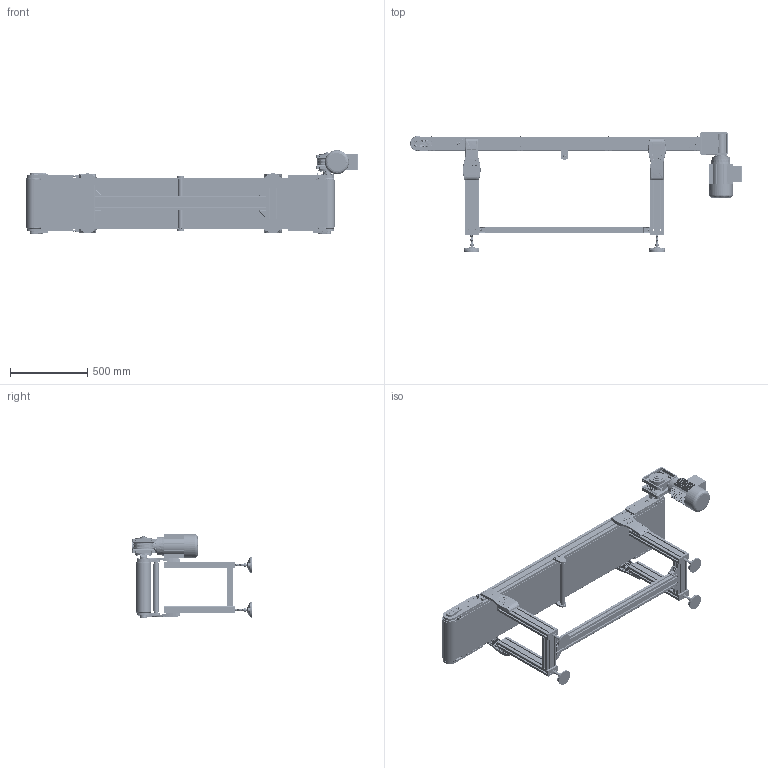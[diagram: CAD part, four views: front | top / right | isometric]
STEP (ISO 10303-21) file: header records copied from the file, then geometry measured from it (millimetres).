
FILE_DESCRIPTION (( 'STEP AP214' ), '1' );
FILE_NAME ('NASTRO_RETTILINEO_TAPPETO.step', '2026-05-11T04:44:31', ( 'Utente Windows' ), ( '' ), 'SwSTEP 2.0', 'SolidWorks 2024', '' );
FILE_SCHEMA (( 'AUTOMOTIVE_DESIGN' ));
Length unit declared in the file: millimetre
Products named in the file (65): 084.808.003_084.808.003; 084.802.068; VITI TE UNI 5739_M8x16 UNI 5739; 084.303.001; NASTRO_RETTILINEO_TAPPETO; 084.405.001; 084.812.004; 2010.000.073; TAPPETO_STANDARD; 084.302.000 DADI ALUSIC 13x13-1_084.302.004; 084.802.014; BLOCCO_RINVIO_95_STANDARD_CON TENDINASTRO E CARTER; 084.802.060_Default<A macchina>; VITI TSEI UNI 5933_M4x12 UNI 5933; BLOCCO_TRAINO_95_STANDARD_63_CON TENDINASTRO E SENZA CARTER; 084.802.013-2; BLOCCO_TRAINO_95_STANDARD_CON TENDINASTRO E CARTER; 084.802.034_084.802.034; VITE_DADO_M5X12; 2010.000.072; 084.301.000 VITI ALUSIC1_084.301.003; PIEDE_95; VITI TCEI UNI 5931_M4x25 UNI 5931; 084.810.003; VITI TE UNI 5739_M8x12 UNI 5739; 084.201.019; FLANGIA_GAMBA_95_CON GIUNTI; BLOCCO_REGGITAPPETO; 084.802.062; RULLO_95_Default<A macchina>; VITE_RONDELLA_M8X20; 30UNI7435; 084.802.017_084.802.017; 084.808.013; 084.803.003; VITI TSEI UNI 5933_M5x12 UNI 5933; 084.808.002_084.808.002; CHIAVETTE_A 8x7x20 UNI 6604-69; 084.302.060; GAMBE_D95_Default<A macchina>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
Assembly tree (197 placements, depth 4):
  NASTRO_RETTILINEO_TAPPETO
    TAPPETO_STANDARD
    TELAIO_95_STANDARD_Default<A macchina>
    LAMIERA_STANDARD
    RULLO_95_Default<A macchina>  x2
    BLOCCO_PERNO_95_63
      084.812.004
      084.810.003
      CHIAVETTE_A 8x7x70 UNI 6604-69
      RONDELLE FASCIA LARGA UNI 6593_8.4x32 UNI 6593
      VITI TE UNI 5739_M8x16 UNI 5739
      CHIAVETTE_A 8x7x20 UNI 6604-69
      30UNI7435
    BLOCCO_TRAINO_95_STANDARD_63_CON TENDINASTRO E SENZA CARTER
      084.808.003_084.808.003
      084.302.060  x2
      084.802.034_084.802.034
      084.301.000 VITI ALUSIC_084.301.003  x6
      084.802.067_Default<A macchina>
      VITI TCEI UNI 5931_M4x25 UNI 5931  x2
      BLOCCO_BRACCIO_CH06P_CH06P
        084.808.013
        084.802.062
        084.802.060_Default<A macchina>
        VITI TE UNI 5739_M8x12 UNI 5739  x12
    BLOCCO_PERNO_95_RINVIO  x3
      084.812.003
      084.810.003
      30UNI7435
    BLOCCO_TRAINO_95_STANDARD_CON TENDINASTRO E CARTER
      084.808.002_084.808.002
      084.302.060  x2
      084.802.019_084.802.019
      084.301.000 VITI ALUSIC_084.301.003  x6
      VITI TCEI UNI 5931_M4x25 UNI 5931  x2
      084.802.071
      084.802.068
      VITI TSEI UNI 5933_M4x12 UNI 5933  x2
    BLOCCO_RINVIO_95_STANDARD_CON TENDINASTRO E CARTER  x2
      084.808.002_084.808.002
      084.803.003
      084.302.060
      084.802.019_084.802.019
      VITI TSEI UNI 5933_M4x12 UNI 5933
      084.302.000 DADI ALUSIC 13x13-1_084.302.004
      084.301.000 VITI ALUSIC_084.301.003
      084.802.071
    GAMBE_D95_Default<A macchina>  x2
    FLANGIA_GAMBA_95_CON GIUNTI
      2010.000.072
        2010.000.072_L_Default<A macchina>
        2010.000.073
        2010.000.074
      084.302.000 DADI ALUSIC 13x13-1_084.302.004  x6
      RONDELLE UNI 6592_8.4x17 UNI 6592  x7
      084.301.000 VITI ALUSIC1_084.301.003  x7
    FLANGIA_GAMBA_95_CON GIUNTI  x3
      2010.000.072
        2010.000.072_L_Default<A macchina>
        2010.000.073
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Bounding box: 2149.5 x 773 x 541.5 mm (x, y, z)
Volume: 23849885.5 mm3; surface area: 13539128.1 mm2
Topology: 341 solids, 348 shells, 16527 faces, 43026 edges, 27521 vertices
Faces by surface type: plane 7441, cylinder 4550, bspline 1777, cone 1516, torus 1107, sphere 136
Entity records: 244491 total; most frequent: CARTESIAN_POINT 91465, ORIENTED_EDGE 33034, DIRECTION 29628, EDGE_CURVE 16517, VERTEX_POINT 10641, AXIS2_PLACEMENT_3D 10110, VECTOR 9408, LINE 9408
